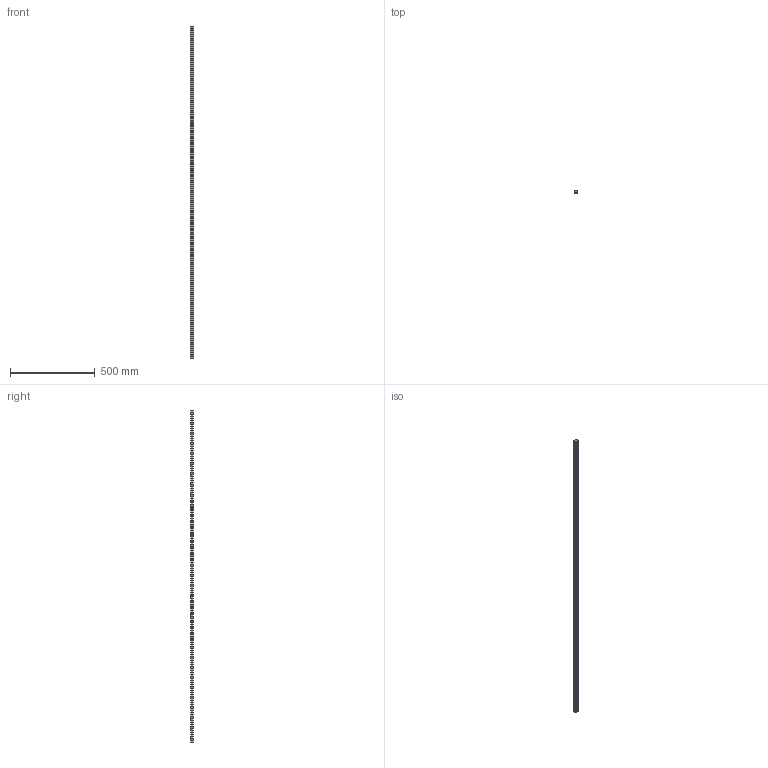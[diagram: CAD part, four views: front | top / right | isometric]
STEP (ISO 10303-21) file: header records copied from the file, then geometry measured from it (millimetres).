
FILE_DESCRIPTION (( 'STEP AP203' ), '1' );
FILE_NAME ('L1016.BL20-1960.step', '2019-06-12T11:51:14', ( '' ), ( '' ), 'SwSTEP 2.0', 'SolidWorks 2017', '' );
FILE_SCHEMA (( 'CONFIG_CONTROL_DESIGN' ));
Length unit declared in the file: millimetre
Products named in the file (1): L1016.BL20-1960
Bounding box: 20 x 16.3 x 1960 mm (x, y, z)
Volume: 544737 mm3; surface area: 157885.1 mm2
Topology: 1 solids, 1 shells, 191 faces, 468 edges, 312 vertices
Faces by surface type: cylinder 136, plane 55
Entity records: 5983 total; most frequent: DIRECTION 1124, CARTESIAN_POINT 972, ORIENTED_EDGE 936, EDGE_CURVE 468, AXIS2_PLACEMENT_3D 464, VERTEX_POINT 312, EDGE_LOOP 290, CIRCLE 272
